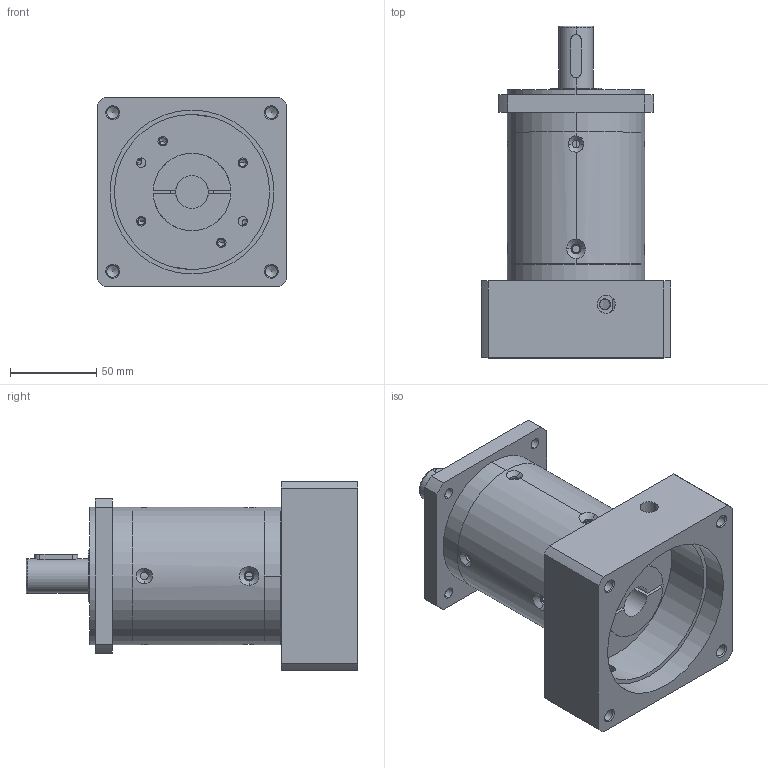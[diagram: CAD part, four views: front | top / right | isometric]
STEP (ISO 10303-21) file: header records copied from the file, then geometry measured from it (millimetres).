
FILE_DESCRIPTION(/* description */ (''),/* implementation_level */ '2;1');
FILE_NAME(/* name */ 'WPF080-L2-B-95-130-M8-19-41-边110.stp',/* time_stamp */ '2022-06-30T08:15:18+08:00',/* author */ (''),/* organization */ (''),/* preprocessor_version */ 'ST-DEVELOPER v16.7',/* originating_system */ 'SIEMENS PLM Software NX 12.0',/* authorisation */ '');
FILE_SCHEMA (('AUTOMOTIVE_DESIGN { 1 0 10303 214 3 1 1 1 }'));
Length unit declared in the file: millimetre
Products named in the file (9): 行星底座-WAB090-DZ(750W)-(19-41-70-90-M6
)120; WPF080-RING-L1; 行星法兰-WPF080-FL; 内齿圈-WPF080-RING-L2; 行星后盖-WPF080-HG-S1-(50260166)A96; WPF080-RING-L197; DZ; fl; WPF080-L1-B-95-130-M8-19-41-边110_stp
Assembly tree (8 placements, depth 3):
  WPF080-L1-B-95-130-M8-19-41-边110_stp
    fl
      内齿圈-WPF080-RING-L2
      行星法兰-WPF080-FL
    DZ
      WPF080-RING-L1
      行星底座-WAB090-DZ(750W)-(19-41-70-90-M6
)120
    WPF080-RING-L197
    行星后盖-WPF080-HG-S1-(50260166)A96
Bounding box: 110 x 192.4 x 110 mm (x, y, z)
Volume: 720449 mm3; surface area: 159297.7 mm2
Topology: 4 solids, 4 shells, 270 faces, 736 edges, 454 vertices
Faces by surface type: cylinder 145, cone 67, plane 52, torus 6
Full cylindrical faces by diameter (mm): 6 x1, 6.8 x4, 45 x1, 90 x1, 95 x1
Entity records: 9605 total; most frequent: CARTESIAN_POINT 2557, DIRECTION 1501, ORIENTED_EDGE 1380, EDGE_CURVE 690, AXIS2_PLACEMENT_3D 612, VERTEX_POINT 454, EDGE_LOOP 359, CIRCLE 333
